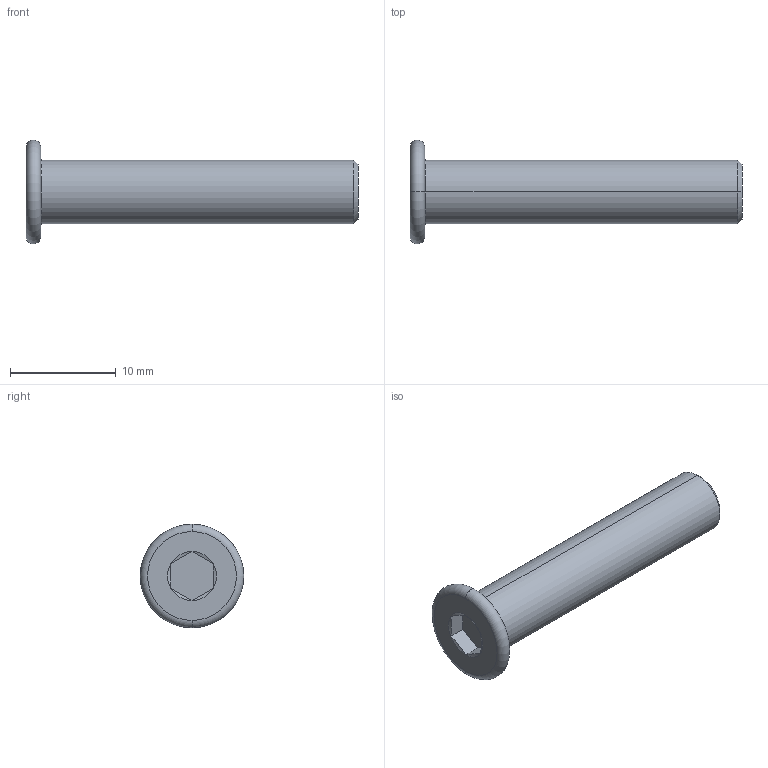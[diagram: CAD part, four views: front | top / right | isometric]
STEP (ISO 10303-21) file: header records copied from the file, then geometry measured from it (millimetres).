
FILE_DESCRIPTION (( 'STEP AP203' ), '1' );
FILE_NAME ('LGD-304M-M6x30.STEP', '2026-08-13T12:55:32', ( '' ), ( '' ), 'SwSTEP 2.0', 'SolidWorks 2020', '' );
FILE_SCHEMA (( 'CONFIG_CONTROL_DESIGN' ));
Length unit declared in the file: millimetre
Products named in the file (1): LGD-304M-M6x30
Bounding box: 31.4 x 9.8 x 9.8 mm (x, y, z)
Volume: 923.9 mm3; surface area: 756.4 mm2
Topology: 1 solids, 1 shells, 24 faces, 44 edges, 24 vertices
Faces by surface type: plane 10, cone 8, torus 4, cylinder 2
Entity records: 673 total; most frequent: CARTESIAN_POINT 119, DIRECTION 110, ORIENTED_EDGE 88, AXIS2_PLACEMENT_3D 47, EDGE_CURVE 44, EDGE_LOOP 26, FACE_OUTER_BOUND 24, VERTEX_POINT 24
